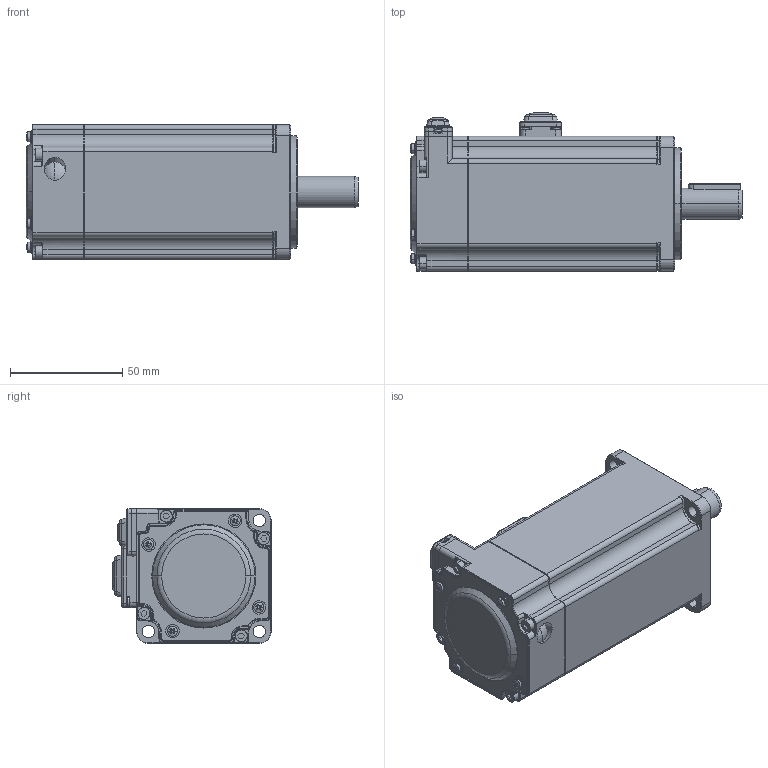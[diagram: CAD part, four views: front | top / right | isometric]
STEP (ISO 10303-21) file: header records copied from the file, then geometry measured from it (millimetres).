
FILE_DESCRIPTION (( 'STEP AP214' ), '1' );
FILE_NAME ('电机组件（刹车）-直插.STEP', '2021-12-24T12:44:49', ( '' ), ( '' ), 'SwSTEP 2.0', 'SolidWorks 2021', '' );
FILE_SCHEMA (( 'AUTOMOTIVE_DESIGN' ));
Length unit declared in the file: millimetre
Products named in the file (1): 电机组件（刹车）-直插
Bounding box: 148.1 x 70.5 x 60.2 mm (x, y, z)
Surface area: 41119.2 mm2 (no closed solid volume)
Topology: 0 solids, 46 shells, 905 faces, 2623 edges, 1717 vertices
Faces by surface type: cylinder 335, plane 327, torus 99, cone 93, bspline 41, sphere 10
Entity records: 42838 total; most frequent: CARTESIAN_POINT 9264, DIRECTION 5272, ORIENTED_EDGE 4435, EDGE_CURVE 2613, AXIS2_PLACEMENT_3D 2072, VERTEX_POINT 1717, CIRCLE 1207, VECTOR 1128
